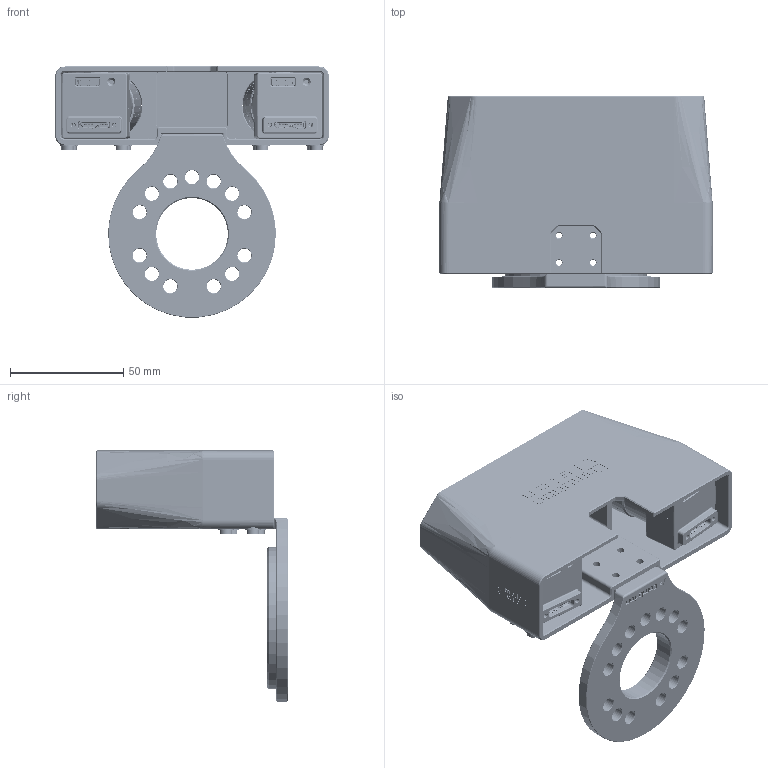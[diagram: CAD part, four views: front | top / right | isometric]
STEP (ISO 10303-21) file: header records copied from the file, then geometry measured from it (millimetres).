
FILE_DESCRIPTION(/* description */ (''),/* implementation_level */ '2;1');
FILE_NAME(/* name */ 'C:/Users/Maciej/Files/Firma/Clients/Cambrian Robotics/1-41) Camera cases/2) Camera case ver2/From CR/Camera case ver2 polygon frontblock with cameras.step',/* time_stamp */ '2022-06-23T14:31:21+02:00',/* author */ (''),/* organization */ (''),/* preprocessor_version */ 'ST-DEVELOPER v19',/* originating_system */ 'Autodesk Translation Framework v11.7.0.108',/* authorisation */ '');
FILE_SCHEMA (('AUTOMOTIVE_DESIGN { 1 0 10303 214 3 1 1 }'));
Products named in the file (12): Camera case ver2 polygon frontblock; Bolts; Socket Head Bolt M3 x 7; Camera case ver2 polygon frontblock_1; Washers; Nordlock washer M3; Unimount; Unimount CNC; volume-ueye-xcp-usb3-housed; volume-ueye-xcp-usb3-housed_1; AE00351-IDS-2M12-C0620; Camera
Assembly tree (27 placements, depth 3):
  Camera case ver2 polygon frontblock
    Bolts
      Socket Head Bolt M3 x 7  x8
    Camera case ver2 polygon frontblock_1
    Washers
      Nordlock washer M3  x8
    Unimount
      Unimount CNC
    volume-ueye-xcp-usb3-housed
      AE00351-IDS-2M12-C0620
      Camera
    volume-ueye-xcp-usb3-housed_1
      AE00351-IDS-2M12-C0620
      Camera
Bounding box: 120.5 x 84.5 x 110.67 mm (x, y, z)
Volume: 181250.8 mm3; surface area: 117885.5 mm2
Topology: 74 solids, 94 shells, 11104 faces, 30915 edges, 20288 vertices
Faces by surface type: plane 4594, bspline 4220, cylinder 1855, cone 271, torus 152, sphere 12
Full cylindrical faces by diameter (mm): 0.7 x2, 0.8 x2, 1.1 x6, 1.25 x26, 1.6 x20, 2 x14, 2.1 x6, 2.5 x8, 2.529 x8, 2.927 x8, 3.3 x14, 3.4 x14, 5.5 x8, 6.1 x13, 7 x8, 7.5 x8, 8.7 x2, 9.5 x2, 14.4 x2, 14.8 x2, 15 x2, 16 x2, 16.2 x2, 17.5 x2, 18 x2, 22 x2, 22.5 x2, 24 x4, 24.3 x2, 24.6 x2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
Entity records: 313538 total; most frequent: CARTESIAN_POINT 138069, ORIENTED_EDGE 43132, DIRECTION 24813, EDGE_CURVE 21566, VERTEX_POINT 14189, LINE 11483, VECTOR 11483, EDGE_LOOP 8167
